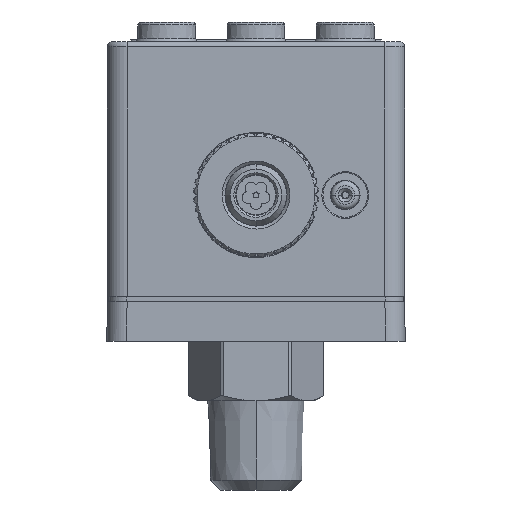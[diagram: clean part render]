
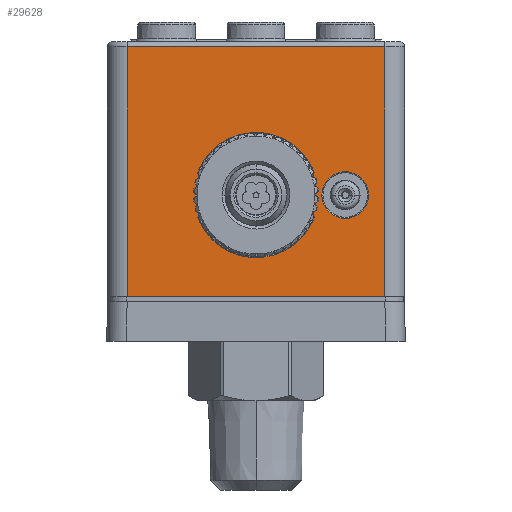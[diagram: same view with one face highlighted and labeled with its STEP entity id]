
A CAD part, front view. The second image highlights one B-rep face of the part: STEP entity #29628.
In plain terms, the highlighted planar face has unit normal (0, -1, 0).
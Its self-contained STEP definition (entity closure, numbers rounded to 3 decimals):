
#4558=CARTESIAN_POINT('',(4.759,-15.,12.417));
#4559=DIRECTION('',(0.,1.,0.));
#4560=DIRECTION('',(1.,0.,-0.017));
#4561=AXIS2_PLACEMENT_3D('',#4558,#4559,#4560);
#4593=CARTESIAN_POINT('',(4.759,-15.,17.083));
#4594=DIRECTION('',(0.,1.,0.));
#4595=DIRECTION('',(0.898,0.,0.44));
#4596=AXIS2_PLACEMENT_3D('',#4593,#4594,#4595);
#5109=CARTESIAN_POINT('',(-4.759,-15.,17.083));
#5110=DIRECTION('',(0.,1.,0.));
#5111=DIRECTION('',(-1.,0.,0.017));
#5112=AXIS2_PLACEMENT_3D('',#5109,#5110,#5111);
#5139=CARTESIAN_POINT('',(-4.759,-15.,12.417));
#5140=DIRECTION('',(0.,1.,0.));
#5141=DIRECTION('',(-0.898,0.,-0.44));
#5142=AXIS2_PLACEMENT_3D('',#5139,#5140,#5141);
#5144=DIRECTION('',(1.,0.,0.));
#5145=VECTOR('',#5144,26.);
#5146=CARTESIAN_POINT('',(-13.,-15.,4.5));
#5147=LINE('',#5146,#5145);
#5148=DIRECTION('',(0.,0.,-1.));
#5149=VECTOR('',#5148,25.2);
#5150=CARTESIAN_POINT('',(-13.,-15.,29.7));
#5151=LINE('',#5150,#5149);
#5152=DIRECTION('',(1.,0.,0.));
#5153=VECTOR('',#5152,26.);
#5154=CARTESIAN_POINT('',(-13.,-15.,29.7));
#5155=LINE('',#5154,#5153);
#5156=DIRECTION('',(0.,0.,-1.));
#5157=VECTOR('',#5156,25.2);
#5158=CARTESIAN_POINT('',(13.,-15.,29.7));
#5159=LINE('',#5158,#5157);
#5160=CARTESIAN_POINT('',(0.,-15.,14.75));
#5161=DIRECTION('',(0.,-1.,0.));
#5162=DIRECTION('',(-0.898,0.,-0.44));
#5163=AXIS2_PLACEMENT_3D('',#5160,#5161,#5162);
#5165=DIRECTION('',(-0.017,0.,-1.));
#5166=VECTOR('',#5165,2.35);
#5167=CARTESIAN_POINT('',(5.8,-15.,14.75));
#5168=LINE('',#5167,#5166);
#5169=DIRECTION('',(0.017,0.,-1.));
#5170=VECTOR('',#5169,2.35);
#5171=CARTESIAN_POINT('',(5.759,-15.,17.1));
#5172=LINE('',#5171,#5170);
#5173=CARTESIAN_POINT('',(0.,-15.,14.75));
#5174=DIRECTION('',(0.,-1.,0.));
#5175=DIRECTION('',(0.898,0.,0.44));
#5176=AXIS2_PLACEMENT_3D('',#5173,#5174,#5175);
#5178=DIRECTION('',(0.017,0.,1.));
#5179=VECTOR('',#5178,2.35);
#5180=CARTESIAN_POINT('',(-5.8,-15.,14.75));
#5181=LINE('',#5180,#5179);
#5182=DIRECTION('',(-0.017,0.,1.));
#5183=VECTOR('',#5182,2.35);
#5184=CARTESIAN_POINT('',(-5.759,-15.,12.4));
#5185=LINE('',#5184,#5183);
#5186=CARTESIAN_POINT('',(9.,-15.,14.75));
#5187=DIRECTION('',(0.,1.,0.));
#5188=DIRECTION('',(-1.,0.,0.));
#5189=AXIS2_PLACEMENT_3D('',#5186,#5187,#5188);
#5191=CARTESIAN_POINT('',(9.,-15.,14.75));
#5192=DIRECTION('',(0.,1.,0.));
#5193=DIRECTION('',(1.,0.,0.));
#5194=AXIS2_PLACEMENT_3D('',#5191,#5192,#5193);
#23112=CARTESIAN_POINT('',(-13.,-15.,4.5));
#23113=CARTESIAN_POINT('',(13.,-15.,4.5));
#23114=VERTEX_POINT('',#23112);
#23115=VERTEX_POINT('',#23113);
#23136=CARTESIAN_POINT('',(13.,-15.,29.7));
#23137=VERTEX_POINT('',#23136);
#23142=CARTESIAN_POINT('',(-13.,-15.,29.7));
#23143=VERTEX_POINT('',#23142);
#23244=CARTESIAN_POINT('',(6.646,-15.,14.75));
#23245=CARTESIAN_POINT('',(11.354,-15.,14.75));
#23246=VERTEX_POINT('',#23244);
#23247=VERTEX_POINT('',#23245);
#23438=CARTESIAN_POINT('',(5.8,-15.,14.75));
#23439=VERTEX_POINT('',#23438);
#23449=CARTESIAN_POINT('',(5.759,-15.,17.1));
#23450=VERTEX_POINT('',#23449);
#23451=CARTESIAN_POINT('',(5.759,-15.,12.4));
#23452=VERTEX_POINT('',#23451);
#23453=CARTESIAN_POINT('',(5.657,-15.,17.523));
#23454=VERTEX_POINT('',#23453);
#23455=CARTESIAN_POINT('',(5.657,-15.,11.977));
#23456=VERTEX_POINT('',#23455);
#23464=CARTESIAN_POINT('',(-5.657,-15.,17.523));
#23465=VERTEX_POINT('',#23464);
#23466=CARTESIAN_POINT('',(-5.657,-15.,11.977));
#23467=VERTEX_POINT('',#23466);
#23478=CARTESIAN_POINT('',(-5.759,-15.,12.4));
#23479=CARTESIAN_POINT('',(-5.8,-15.,14.75));
#23480=VERTEX_POINT('',#23478);
#23481=VERTEX_POINT('',#23479);
#23482=CARTESIAN_POINT('',(-5.759,-15.,17.1));
#23483=VERTEX_POINT('',#23482);
#29595=CARTESIAN_POINT('',(-15.,-15.,2.9));
#29596=DIRECTION('',(0.,-1.,0.));
#29597=DIRECTION('',(1.,0.,0.));
#29598=AXIS2_PLACEMENT_3D('',#29595,#29596,#29597);
#29599=PLANE('',#29598);
#29601=ORIENTED_EDGE('',*,*,#29600,.F.);
#29603=ORIENTED_EDGE('',*,*,#29602,.F.);
#29605=ORIENTED_EDGE('',*,*,#29604,.T.);
#29607=ORIENTED_EDGE('',*,*,#29606,.T.);
#29608=EDGE_LOOP('',(#29601,#29603,#29605,#29607));
#29609=FACE_OUTER_BOUND('',#29608,.F.);
#29610=ORIENTED_EDGE('',*,*,#28454,.T.);
#29611=ORIENTED_EDGE('',*,*,#29053,.F.);
#29612=ORIENTED_EDGE('',*,*,#29068,.F.);
#29613=ORIENTED_EDGE('',*,*,#29082,.F.);
#29614=ORIENTED_EDGE('',*,*,#29097,.F.);
#29615=ORIENTED_EDGE('',*,*,#29252,.T.);
#29616=ORIENTED_EDGE('',*,*,#29548,.F.);
#29617=ORIENTED_EDGE('',*,*,#29562,.F.);
#29618=ORIENTED_EDGE('',*,*,#29577,.F.);
#29619=ORIENTED_EDGE('',*,*,#29590,.F.);
#29620=EDGE_LOOP('',(#29610,#29611,#29612,#29613,#29614,#29615,#29616,#29617,
#29618,#29619));
#29621=FACE_BOUND('',#29620,.F.);
#29623=ORIENTED_EDGE('',*,*,#29622,.F.);
#29625=ORIENTED_EDGE('',*,*,#29624,.F.);
#29626=EDGE_LOOP('',(#29623,#29625));
#29627=FACE_BOUND('',#29626,.F.);
#29628=ADVANCED_FACE('',(#29609,#29621,#29627),#29599,.T.);
#4562=CIRCLE('',#4561,1.);
#4597=CIRCLE('',#4596,1.);
#5113=CIRCLE('',#5112,1.);
#5143=CIRCLE('',#5142,1.);
#5164=CIRCLE('',#5163,6.3);
#5177=CIRCLE('',#5176,6.3);
#5190=CIRCLE('',#5189,2.354);
#5195=CIRCLE('',#5194,2.354);
#28454=EDGE_CURVE('',#23467,#23456,#5164,.T.);
#29053=EDGE_CURVE('',#23452,#23456,#4562,.T.);
#29068=EDGE_CURVE('',#23439,#23452,#5168,.T.);
#29082=EDGE_CURVE('',#23450,#23439,#5172,.T.);
#29097=EDGE_CURVE('',#23454,#23450,#4597,.T.);
#29252=EDGE_CURVE('',#23454,#23465,#5177,.T.);
#29548=EDGE_CURVE('',#23483,#23465,#5113,.T.);
#29562=EDGE_CURVE('',#23481,#23483,#5181,.T.);
#29577=EDGE_CURVE('',#23480,#23481,#5185,.T.);
#29590=EDGE_CURVE('',#23467,#23480,#5143,.T.);
#29600=EDGE_CURVE('',#23114,#23115,#5147,.T.);
#29602=EDGE_CURVE('',#23143,#23114,#5151,.T.);
#29604=EDGE_CURVE('',#23143,#23137,#5155,.T.);
#29606=EDGE_CURVE('',#23137,#23115,#5159,.T.);
#29622=EDGE_CURVE('',#23246,#23247,#5190,.T.);
#29624=EDGE_CURVE('',#23247,#23246,#5195,.T.);
